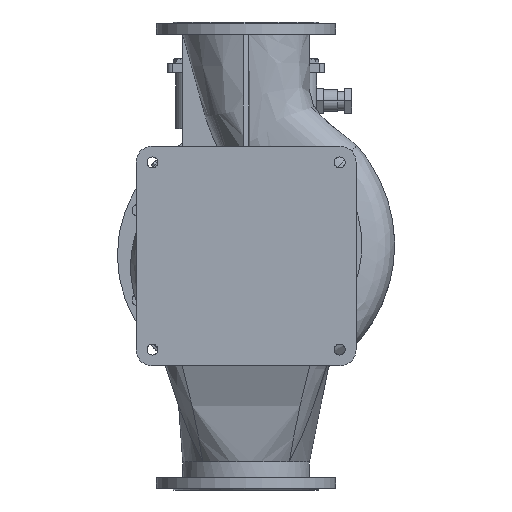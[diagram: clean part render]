
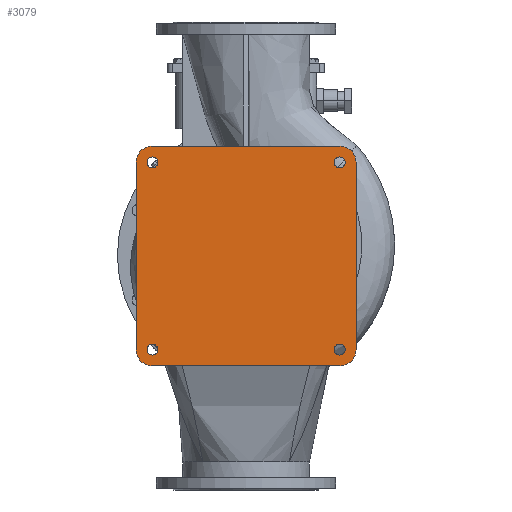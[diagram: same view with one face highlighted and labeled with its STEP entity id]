
A CAD part, front view. The second image highlights one B-rep face of the part: STEP entity #3079.
In plain terms, the highlighted planar face has unit normal (0, -1, 0).
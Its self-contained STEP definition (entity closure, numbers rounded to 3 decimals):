
#230=FACE_BOUND('',#7090,.T.);
#231=FACE_BOUND('',#7091,.T.);
#232=FACE_BOUND('',#7092,.T.);
#233=FACE_BOUND('',#7093,.T.);
#234=FACE_BOUND('',#7094,.T.);
#1149=PLANE('',#29785);
#3079=ADVANCED_FACE('',(#230,#231,#232,#233,#234),#1149,.T.);
#7090=EDGE_LOOP('',(#12741,#12742));
#7091=EDGE_LOOP('',(#12743,#12744));
#7092=EDGE_LOOP('',(#12745,#12746,#12747,#12748,#12749,#12750,#12751,#12752));
#7093=EDGE_LOOP('',(#12753,#12754));
#7094=EDGE_LOOP('',(#12755,#12756));
#9229=LINE('',#47916,#10768);
#9230=LINE('',#47920,#10769);
#9231=LINE('',#47924,#10770);
#9232=LINE('',#47928,#10771);
#10768=VECTOR('',#33723,1.);
#10769=VECTOR('',#33726,1.);
#10770=VECTOR('',#33729,1.);
#10771=VECTOR('',#33732,1.);
#12741=ORIENTED_EDGE('',*,*,#23657,.T.);
#12742=ORIENTED_EDGE('',*,*,#23918,.T.);
#12743=ORIENTED_EDGE('',*,*,#23665,.T.);
#12744=ORIENTED_EDGE('',*,*,#23919,.T.);
#12745=ORIENTED_EDGE('',*,*,#23920,.F.);
#12746=ORIENTED_EDGE('',*,*,#23921,.F.);
#12747=ORIENTED_EDGE('',*,*,#23922,.F.);
#12748=ORIENTED_EDGE('',*,*,#23923,.F.);
#12749=ORIENTED_EDGE('',*,*,#23924,.F.);
#12750=ORIENTED_EDGE('',*,*,#23925,.F.);
#12751=ORIENTED_EDGE('',*,*,#23926,.F.);
#12752=ORIENTED_EDGE('',*,*,#23927,.F.);
#12753=ORIENTED_EDGE('',*,*,#23661,.T.);
#12754=ORIENTED_EDGE('',*,*,#23928,.T.);
#12755=ORIENTED_EDGE('',*,*,#23653,.T.);
#12756=ORIENTED_EDGE('',*,*,#23929,.T.);
#20945=VERTEX_POINT('',#42084);
#20946=VERTEX_POINT('',#42086);
#20949=VERTEX_POINT('',#42093);
#20950=VERTEX_POINT('',#42095);
#20953=VERTEX_POINT('',#42102);
#20954=VERTEX_POINT('',#42104);
#20957=VERTEX_POINT('',#42111);
#20958=VERTEX_POINT('',#42113);
#21138=VERTEX_POINT('',#47914);
#21139=VERTEX_POINT('',#47915);
#21140=VERTEX_POINT('',#47917);
#21141=VERTEX_POINT('',#47919);
#21142=VERTEX_POINT('',#47921);
#21143=VERTEX_POINT('',#47923);
#21144=VERTEX_POINT('',#47925);
#21145=VERTEX_POINT('',#47927);
#23653=EDGE_CURVE('',#20946,#20945,#27880,.T.);
#23657=EDGE_CURVE('',#20950,#20949,#27882,.T.);
#23661=EDGE_CURVE('',#20954,#20953,#27884,.T.);
#23665=EDGE_CURVE('',#20958,#20957,#27886,.T.);
#23918=EDGE_CURVE('',#20949,#20950,#27984,.T.);
#23919=EDGE_CURVE('',#20957,#20958,#27985,.T.);
#23920=EDGE_CURVE('',#21138,#21139,#27986,.T.);
#23921=EDGE_CURVE('',#21140,#21138,#9229,.T.);
#23922=EDGE_CURVE('',#21141,#21140,#27987,.T.);
#23923=EDGE_CURVE('',#21142,#21141,#9230,.T.);
#23924=EDGE_CURVE('',#21143,#21142,#27988,.T.);
#23925=EDGE_CURVE('',#21144,#21143,#9231,.T.);
#23926=EDGE_CURVE('',#21145,#21144,#27989,.T.);
#23927=EDGE_CURVE('',#21139,#21145,#9232,.T.);
#23928=EDGE_CURVE('',#20953,#20954,#27990,.T.);
#23929=EDGE_CURVE('',#20945,#20946,#27991,.T.);
#27880=CIRCLE('',#29619,14.);
#27882=CIRCLE('',#29622,14.);
#27884=CIRCLE('',#29625,14.);
#27886=CIRCLE('',#29628,14.);
#27984=CIRCLE('',#29777,14.);
#27985=CIRCLE('',#29778,14.);
#27986=CIRCLE('',#29779,42.);
#27987=CIRCLE('',#29780,42.);
#27988=CIRCLE('',#29781,42.);
#27989=CIRCLE('',#29782,42.);
#27990=CIRCLE('',#29783,14.);
#27991=CIRCLE('',#29784,14.);
#29619=AXIS2_PLACEMENT_3D('',#42085,#33311,#33312);
#29622=AXIS2_PLACEMENT_3D('',#42094,#33319,#33320);
#29625=AXIS2_PLACEMENT_3D('',#42103,#33327,#33328);
#29628=AXIS2_PLACEMENT_3D('',#42112,#33335,#33336);
#29777=AXIS2_PLACEMENT_3D('',#47911,#33717,#33718);
#29778=AXIS2_PLACEMENT_3D('',#47912,#33719,#33720);
#29779=AXIS2_PLACEMENT_3D('',#47913,#33721,#33722);
#29780=AXIS2_PLACEMENT_3D('',#47918,#33724,#33725);
#29781=AXIS2_PLACEMENT_3D('',#47922,#33727,#33728);
#29782=AXIS2_PLACEMENT_3D('',#47926,#33730,#33731);
#29783=AXIS2_PLACEMENT_3D('',#47929,#33733,#33734);
#29784=AXIS2_PLACEMENT_3D('',#47930,#33735,#33736);
#29785=AXIS2_PLACEMENT_3D('',#47931,#33737,#33738);
#33311=DIRECTION('',(0.,1.,0.));
#33312=DIRECTION('',(0.,0.,1.));
#33319=DIRECTION('',(0.,1.,0.));
#33320=DIRECTION('',(0.,0.,1.));
#33327=DIRECTION('',(0.,1.,0.));
#33328=DIRECTION('',(0.,0.,1.));
#33335=DIRECTION('',(0.,1.,0.));
#33336=DIRECTION('',(0.,0.,1.));
#33717=DIRECTION('',(0.,1.,0.));
#33718=DIRECTION('',(0.,0.,1.));
#33719=DIRECTION('',(0.,1.,0.));
#33720=DIRECTION('',(0.,0.,1.));
#33721=DIRECTION('',(0.,1.,0.));
#33722=DIRECTION('',(0.,0.,-1.));
#33723=DIRECTION('',(0.,0.,-1.));
#33724=DIRECTION('',(0.,1.,0.));
#33725=DIRECTION('',(0.,0.,-1.));
#33726=DIRECTION('',(1.,0.,0.));
#33727=DIRECTION('',(0.,1.,0.));
#33728=DIRECTION('',(0.,0.,-1.));
#33729=DIRECTION('',(0.,0.,1.));
#33730=DIRECTION('',(0.,1.,0.));
#33731=DIRECTION('',(0.,0.,-1.));
#33732=DIRECTION('',(-1.,0.,0.));
#33733=DIRECTION('',(0.,1.,0.));
#33734=DIRECTION('',(0.,0.,1.));
#33735=DIRECTION('',(0.,1.,0.));
#33736=DIRECTION('',(0.,0.,1.));
#33737=DIRECTION('',(0.,-1.,0.));
#33738=DIRECTION('',(0.,0.,1.));
#42084=CARTESIAN_POINT('',(-240.,-275.,-226.));
#42085=CARTESIAN_POINT('',(-240.,-275.,-240.));
#42086=CARTESIAN_POINT('',(-240.,-275.,-254.));
#42093=CARTESIAN_POINT('',(-240.,-275.,254.));
#42094=CARTESIAN_POINT('',(-240.,-275.,240.));
#42095=CARTESIAN_POINT('',(-240.,-275.,226.));
#42102=CARTESIAN_POINT('',(240.,-275.,254.));
#42103=CARTESIAN_POINT('',(240.,-275.,240.));
#42104=CARTESIAN_POINT('',(240.,-275.,226.));
#42111=CARTESIAN_POINT('',(240.,-275.,-226.));
#42112=CARTESIAN_POINT('',(240.,-275.,-240.));
#42113=CARTESIAN_POINT('',(240.,-275.,-254.));
#47911=CARTESIAN_POINT('',(-240.,-275.,240.));
#47912=CARTESIAN_POINT('',(240.,-275.,-240.));
#47913=CARTESIAN_POINT('',(240.,-275.,-240.));
#47914=CARTESIAN_POINT('',(282.,-275.,-240.));
#47915=CARTESIAN_POINT('',(240.,-275.,-282.));
#47916=CARTESIAN_POINT('',(282.,-275.,-240.));
#47917=CARTESIAN_POINT('',(282.,-275.,240.));
#47918=CARTESIAN_POINT('',(240.,-275.,240.));
#47919=CARTESIAN_POINT('',(240.,-275.,282.));
#47920=CARTESIAN_POINT('',(240.,-275.,282.));
#47921=CARTESIAN_POINT('',(-240.,-275.,282.));
#47922=CARTESIAN_POINT('',(-240.,-275.,240.));
#47923=CARTESIAN_POINT('',(-282.,-275.,240.));
#47924=CARTESIAN_POINT('',(-282.,-275.,-240.));
#47925=CARTESIAN_POINT('',(-282.,-275.,-240.));
#47926=CARTESIAN_POINT('',(-240.,-275.,-240.));
#47927=CARTESIAN_POINT('',(-240.,-275.,-282.));
#47928=CARTESIAN_POINT('',(-240.,-275.,-282.));
#47929=CARTESIAN_POINT('',(240.,-275.,240.));
#47930=CARTESIAN_POINT('',(-240.,-275.,-240.));
#47931=CARTESIAN_POINT('',(240.,-275.,-240.));
